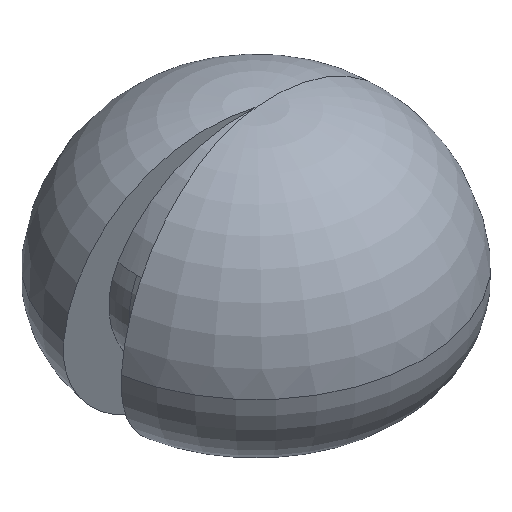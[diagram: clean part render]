
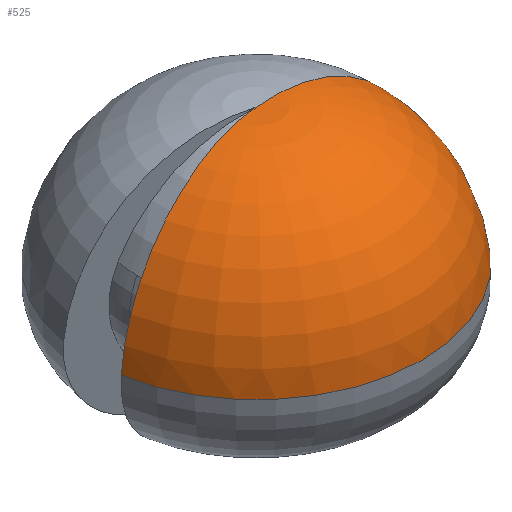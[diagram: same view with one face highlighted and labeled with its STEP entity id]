
A CAD part, isometric view. The second image highlights one B-rep face of the part: STEP entity #525.
In plain terms, the highlighted toroidal (fillet/blend) face has major radius 320 mm and minor radius 2885.06 mm.
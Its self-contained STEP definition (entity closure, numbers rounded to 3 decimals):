
#1 = CARTESIAN_POINT ( 'NONE',  ( 0., 0., 3647.255 ) ) ;
#9 = EDGE_CURVE ( 'NONE', #495, #234, #374, .T. ) ;
#35 = EDGE_CURVE ( 'NONE', #251, #495, #445, .T. ) ;
#86 = CARTESIAN_POINT ( 'NONE',  ( -3145.553, -554.646, 1031.449 ) ) ;
#89 = DIRECTION ( 'NONE',  ( 0., 0., 1. ) ) ;
#110 = AXIS2_PLACEMENT_3D ( 'NONE', #512, #89, #550 ) ;
#132 = DIRECTION ( 'NONE',  ( 0.174, -0.985, 0. ) ) ;
#207 = EDGE_LOOP ( 'NONE', ( #326, #405, #370 ) ) ;
#233 = FACE_OUTER_BOUND ( 'NONE', #207, .T. ) ;
#234 = VERTEX_POINT ( 'NONE', #1 ) ;
#251 = VERTEX_POINT ( 'NONE', #86 ) ;
#252 = EDGE_CURVE ( 'NONE', #234, #251, #423, .T. ) ;
#253 = CARTESIAN_POINT ( 'NONE',  ( 320., 0., 780. ) ) ;
#299 = DIRECTION ( 'NONE',  ( 0., 0., 1. ) ) ;
#325 = CARTESIAN_POINT ( 'NONE',  ( 0., 0., 780. ) ) ;
#326 = ORIENTED_EDGE ( 'NONE', *, *, #35, .T. ) ;
#333 = CARTESIAN_POINT ( 'NONE',  ( 3194.078, 0., 1031.449 ) ) ;
#358 = AXIS2_PLACEMENT_3D ( 'NONE', #253, #414, #386 ) ;
#370 = ORIENTED_EDGE ( 'NONE', *, *, #252, .T. ) ;
#374 = CIRCLE ( 'NONE', #358, 2885.057 ) ;
#386 = DIRECTION ( 'NONE',  ( 0., 0., -1. ) ) ;
#401 = AXIS2_PLACEMENT_3D ( 'NONE', #511, #132, #299 ) ;
#403 = AXIS2_PLACEMENT_3D ( 'NONE', #325, #452, #506 ) ;
#405 = ORIENTED_EDGE ( 'NONE', *, *, #9, .T. ) ;
#414 = DIRECTION ( 'NONE',  ( 0., -1., 0. ) ) ;
#423 = CIRCLE ( 'NONE', #401, 2885.057 ) ;
#435 = TOROIDAL_SURFACE ( 'NONE', #403, 320., 2885.057 ) ;
#445 = CIRCLE ( 'NONE', #110, 3194.078 ) ;
#452 = DIRECTION ( 'NONE',  ( 0., 0., 1. ) ) ;
#495 = VERTEX_POINT ( 'NONE', #333 ) ;
#506 = DIRECTION ( 'NONE',  ( 1., 0., 0. ) ) ;
#511 = CARTESIAN_POINT ( 'NONE',  ( -315.138, -55.567, 780. ) ) ;
#512 = CARTESIAN_POINT ( 'NONE',  ( 0., 0., 1031.449 ) ) ;
#525 = ADVANCED_FACE ( 'NONE', ( #233 ), #435, .T. ) ;
#550 = DIRECTION ( 'NONE',  ( 1., 0., 0. ) ) ;
